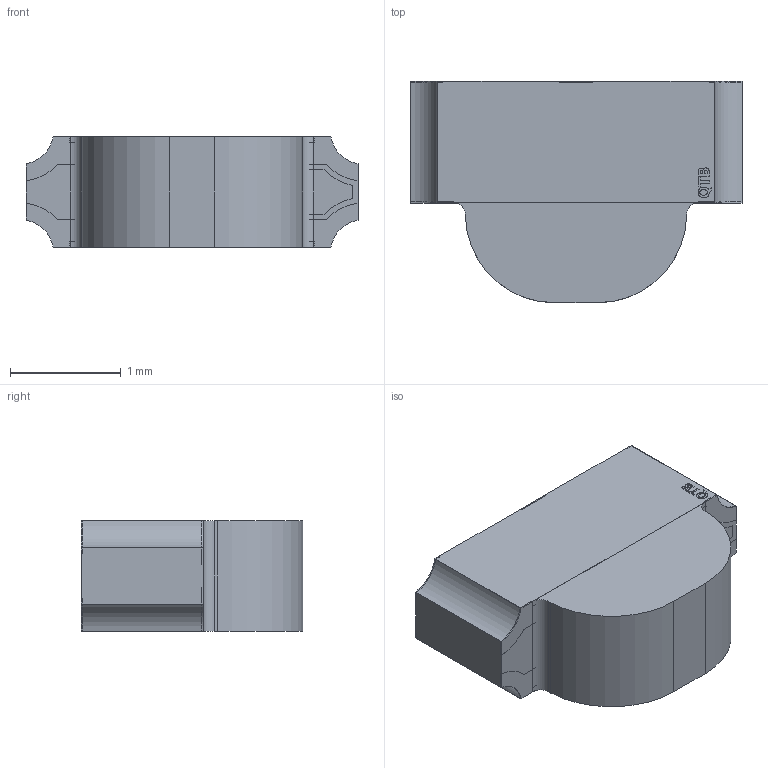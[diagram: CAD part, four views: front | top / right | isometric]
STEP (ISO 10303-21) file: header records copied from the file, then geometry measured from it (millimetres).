
FILE_DESCRIPTION(/* description */ (''),/* implementation_level */ '2;1');
FILE_NAME(/* name */ '5fb6d46e16602314fe199175',/* time_stamp */ '2020-11-19T20:24:16+00:00',/* author */ (''),/* organization */ (''),/* preprocessor_version */ 'ST-DEVELOPER v16.7',/* originating_system */ $,/* authorisation */ $);
FILE_SCHEMA (('AUTOMOTIVE_DESIGN {1 0 10303 214 3 1 1}'));
Length unit declared in the file: metre
Products named in the file (9): QBLP613-RIG (Bi-Color); PAD 1B; PAD 1A; Bottom Polarity Mark; Substrate; Resin; PAD 2A; PAD 2B; Top Polarity Mark
Assembly tree (8 placements, depth 2):
  QBLP613-RIG (Bi-Color)
    PAD 1B
    PAD 1A
    Bottom Polarity Mark
    Substrate
    Resin
    PAD 2A
    PAD 2B
    Top Polarity Mark
Bounding box: 3 x 2 x 1 mm (x, y, z)
Volume: 4.6 mm3; surface area: 30.5 mm2
Topology: 8 solids, 8 shells, 279 faces, 765 edges, 510 vertices
Faces by surface type: plane 170, cylinder 80, bspline 29
Entity records: 9169 total; most frequent: CARTESIAN_POINT 1882, ORIENTED_EDGE 1530, DIRECTION 1385, EDGE_CURVE 765, LINE 547, VECTOR 547, VERTEX_POINT 510, AXIS2_PLACEMENT_3D 419
